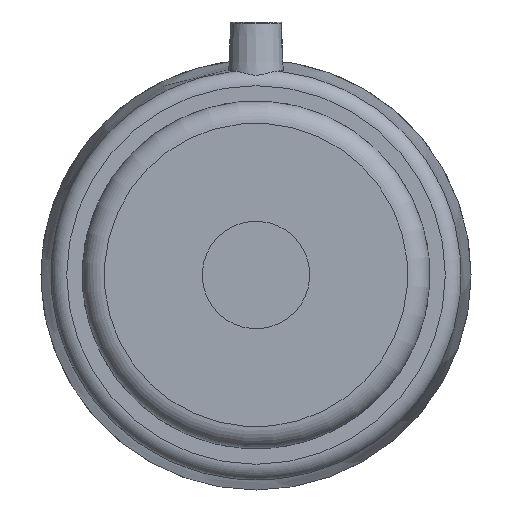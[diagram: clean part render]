
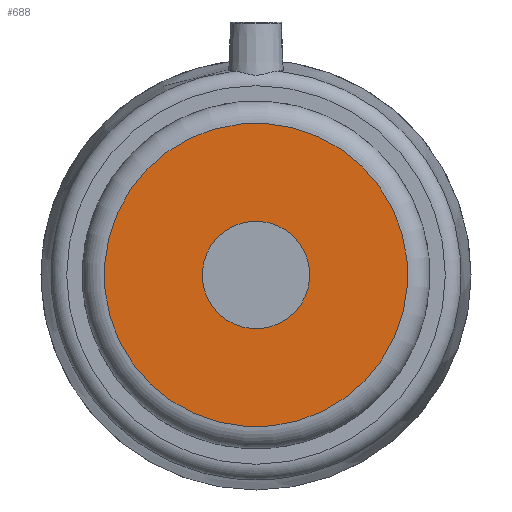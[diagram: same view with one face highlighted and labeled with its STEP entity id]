
A CAD part, left-side view. The second image highlights one B-rep face of the part: STEP entity #688.
In plain terms, the highlighted planar face has unit normal (-1, 0, 0).
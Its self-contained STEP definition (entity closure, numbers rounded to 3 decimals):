
#100=PLANE('',#806);
#163=CIRCLE('',#805,17.);
#164=CIRCLE('',#807,48.);
#306=ORIENTED_EDGE('',*,*,#389,.T.);
#307=ORIENTED_EDGE('',*,*,#388,.F.);
#388=EDGE_CURVE('',#449,#449,#163,.T.);
#389=EDGE_CURVE('',#450,#450,#164,.T.);
#449=VERTEX_POINT('',#1270);
#450=VERTEX_POINT('',#1273);
#536=EDGE_LOOP('',(#306));
#537=EDGE_LOOP('',(#307));
#624=FACE_BOUND('',#536,.T.);
#625=FACE_BOUND('',#537,.T.);
#688=ADVANCED_FACE('',(#624,#625),#100,.T.);
#805=AXIS2_PLACEMENT_3D('',#1269,#1014,#1015);
#806=AXIS2_PLACEMENT_3D('',#1271,#1016,#1017);
#807=AXIS2_PLACEMENT_3D('',#1272,#1018,#1019);
#1014=DIRECTION('',(-1.,0.,0.));
#1015=DIRECTION('',(0.,0.,1.));
#1016=DIRECTION('',(-1.,0.,0.));
#1017=DIRECTION('',(0.,0.,1.));
#1018=DIRECTION('',(-1.,0.,0.));
#1019=DIRECTION('',(0.,0.,1.));
#1269=CARTESIAN_POINT('',(-55.5,0.,0.));
#1270=CARTESIAN_POINT('',(-55.5,0.,17.));
#1271=CARTESIAN_POINT('',(-55.5,0.,17.));
#1272=CARTESIAN_POINT('',(-55.5,0.,0.));
#1273=CARTESIAN_POINT('',(-55.5,0.,48.));
